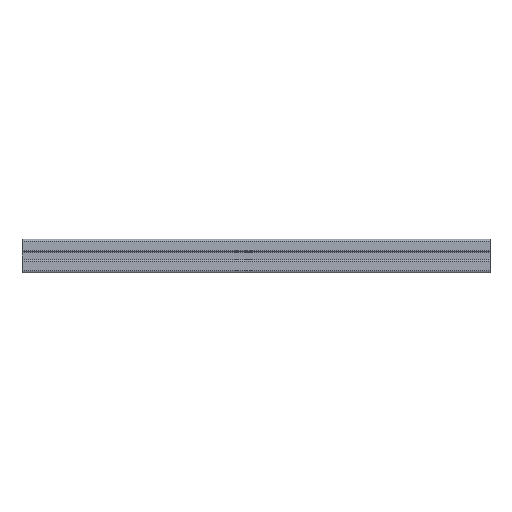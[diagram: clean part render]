
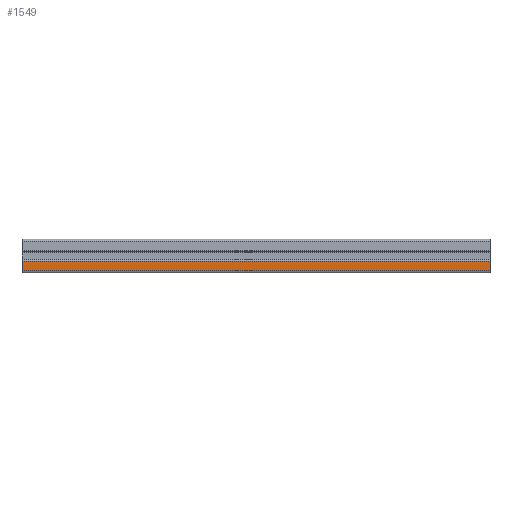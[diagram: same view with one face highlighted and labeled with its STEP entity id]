
A CAD part, left-side view. The second image highlights one B-rep face of the part: STEP entity #1549.
In plain terms, the highlighted planar face has unit normal (-1, 0, 0).
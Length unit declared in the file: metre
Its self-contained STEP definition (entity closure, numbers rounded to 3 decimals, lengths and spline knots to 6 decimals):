
#147=ORIENTED_EDGE('',*,*,#631,.T.);
#148=ORIENTED_EDGE('',*,*,#632,.T.);
#149=ORIENTED_EDGE('',*,*,#633,.F.);
#150=ORIENTED_EDGE('',*,*,#634,.T.);
#631=EDGE_CURVE('',#873,#874,#1035,.T.);
#632=EDGE_CURVE('',#874,#875,#1036,.F.);
#633=EDGE_CURVE('',#876,#875,#1037,.T.);
#634=EDGE_CURVE('',#876,#873,#1038,.T.);
#873=VERTEX_POINT('',#2321);
#874=VERTEX_POINT('',#2322);
#875=VERTEX_POINT('',#2324);
#876=VERTEX_POINT('',#2326);
#1035=LINE('',#2320,#1187);
#1036=LINE('',#2323,#1188);
#1037=LINE('',#2325,#1189);
#1038=LINE('',#2327,#1190);
#1187=VECTOR('',#1822,1.);
#1188=VECTOR('',#1823,1.);
#1189=VECTOR('',#1824,1.);
#1190=VECTOR('',#1825,1.);
#1339=EDGE_LOOP('',(#147,#148,#149,#150));
#1425=FACE_BOUND('',#1339,.T.);
#1511=PLANE('',#1645);
#1549=ADVANCED_FACE('',(#1425),#1511,.F.);
#1645=AXIS2_PLACEMENT_3D('',#2319,#1820,#1821);
#1820=DIRECTION('',(1.,0.,0.));
#1821=DIRECTION('',(0.,0.,-1.));
#1822=DIRECTION('',(0.,0.,1.));
#1823=DIRECTION('',(0.,-1.,0.));
#1824=DIRECTION('',(0.,0.,1.));
#1825=DIRECTION('',(0.,-1.,0.));
#2319=CARTESIAN_POINT('',(0.,0.3556,0.0127));
#2320=CARTESIAN_POINT('',(0.,0.,0.0127));
#2321=CARTESIAN_POINT('',(0.,0.,0.001588));
#2322=CARTESIAN_POINT('',(0.,0.,0.008668));
#2323=CARTESIAN_POINT('',(0.,0.3556,0.008668));
#2324=CARTESIAN_POINT('',(0.,0.3556,0.008668));
#2325=CARTESIAN_POINT('',(0.,0.3556,0.0127));
#2326=CARTESIAN_POINT('',(0.,0.3556,0.001588));
#2327=CARTESIAN_POINT('',(0.,0.,0.001588));
